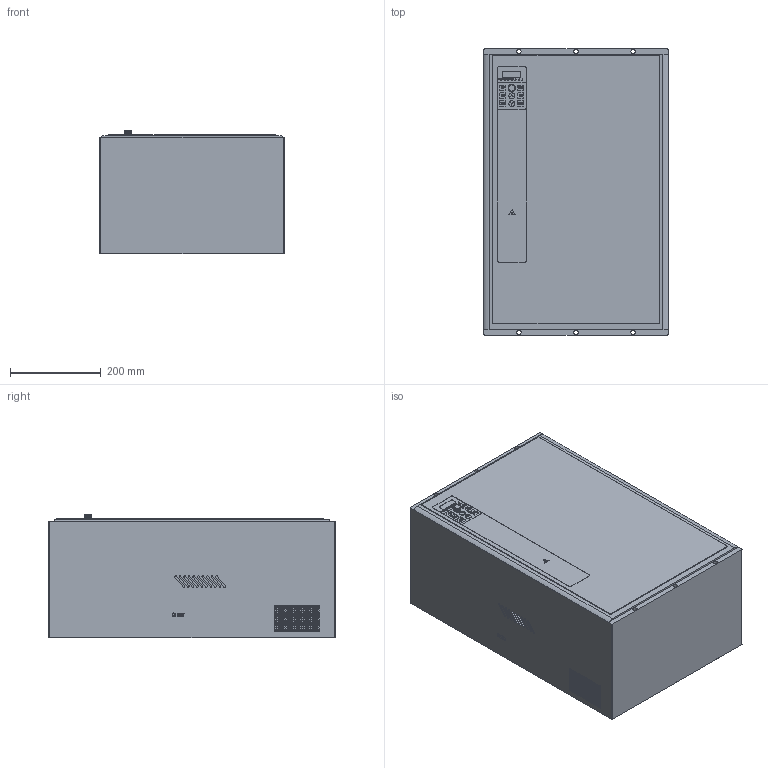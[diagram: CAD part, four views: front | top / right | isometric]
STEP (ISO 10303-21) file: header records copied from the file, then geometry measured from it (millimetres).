
FILE_DESCRIPTION(/* description */ (''),/* implementation_level */ '2;1');
FILE_NAME(/* name */ 'D:\2 ДОГОВОР ЧИНТ\Выслать\CHINT 10.03.2019\NVF2G\NVF2G-75 TS4(90 PS4) NVF2G-90 TS4(110 PS4).stp',/* time_stamp */ '2019-03-11T18:55:46+03:00',/* author */ ('RSagdiev'),/* organization */ (''),/* preprocessor_version */ 'ST-DEVELOPER v16.5',/* originating_system */ 'Autodesk Inventor 2017',/* authorisation */ '');
FILE_SCHEMA (('AUTOMOTIVE_DESIGN { 1 0 10303 214 3 1 1 }'));
Length unit declared in the file: millimetre
Products named in the file (1): NVF2G-75 TS4(90 PS4) NVF2G-90 TS4(110 PS4)
Bounding box: 406.1 x 631 x 272 mm (x, y, z)
Volume: 66945350.1 mm3; surface area: 2093566 mm2
Topology: 15 solids, 15 shells, 1637 faces, 3840 edges, 2560 vertices
Faces by surface type: plane 1036, cylinder 318, bspline 193, cone 90
Full cylindrical faces by diameter (mm): 2 x7, 4 x240, 10 x6, 13 x3
Entity records: 47172 total; most frequent: CARTESIAN_POINT 11336, ORIENTED_EDGE 7168, DIRECTION 6724, EDGE_CURVE 3584, VERTEX_POINT 2560, AXIS2_PLACEMENT_3D 2261, EDGE_LOOP 2232, LINE 2202
